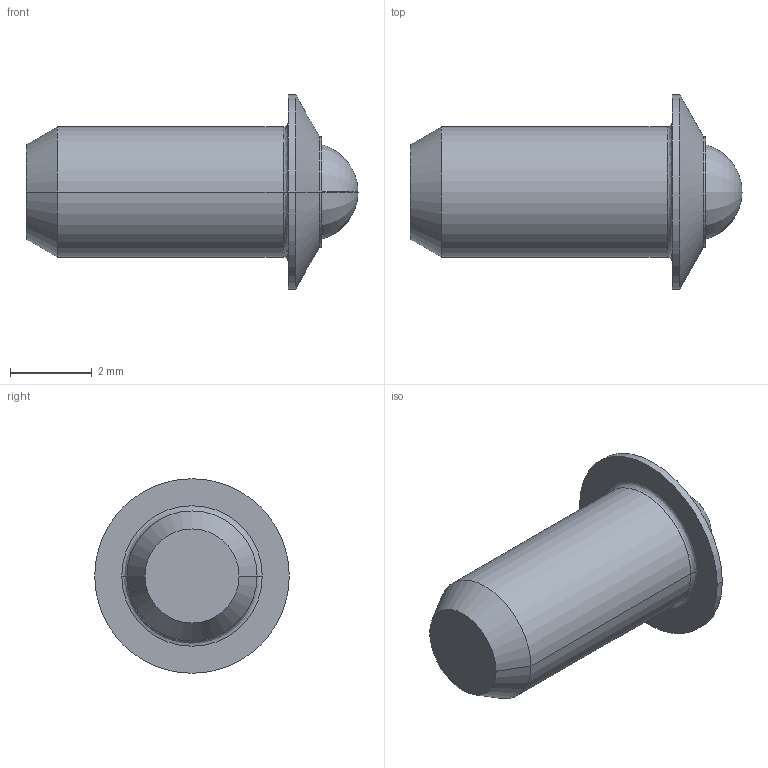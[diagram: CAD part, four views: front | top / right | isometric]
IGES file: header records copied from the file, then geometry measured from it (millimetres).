
Start section:  PTC IGES file: pfb48-part-3d.igs
Global section: file name: pfb48-part-3d.igs; native system: Pro/ENGINEER by Parametric Technology Corporation; preprocessor: 2002350; author: chant; organization: Unknown; date: 070201.162040; units: inch
Bounding box: 8.1 x 4.75 x 4.75 mm (x, y, z)
Surface area: 155.8 mm2 (no closed solid volume)
Topology: 0 solids, 0 shells, 20 faces, 101 edges, 111 vertices
Faces by surface type: revolution 16, bspline 4
